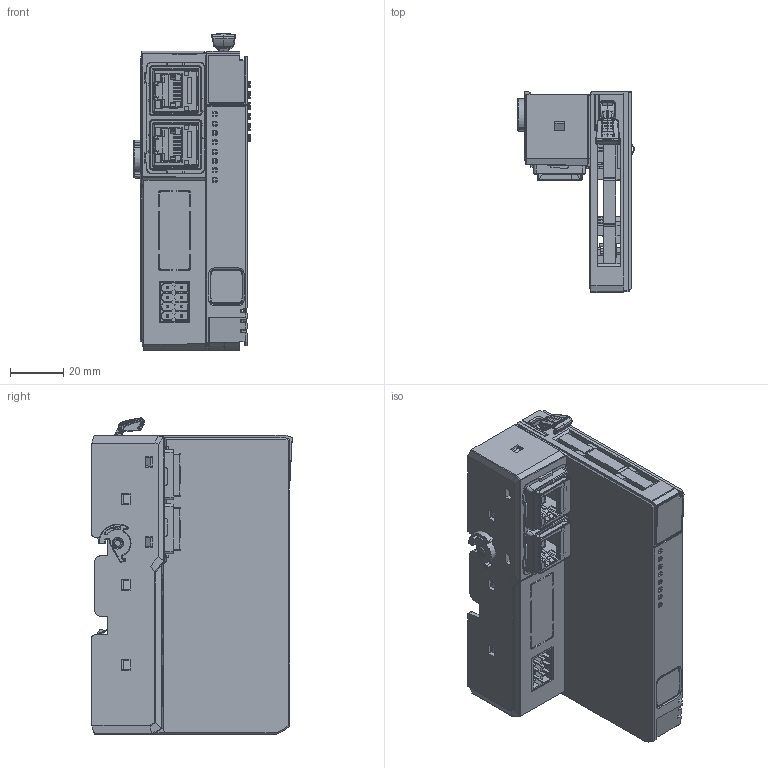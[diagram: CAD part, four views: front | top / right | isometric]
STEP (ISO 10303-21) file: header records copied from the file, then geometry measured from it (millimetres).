
FILE_DESCRIPTION((''),'2;1');
FILE_NAME('PRT0002','2024-09-19T10:44:18',('aoguohui'),(''),'CREO PARAMETRIC BY PTC INC, 2016390','CREO PARAMETRIC BY PTC INC, 2016390','');
FILE_SCHEMA(('AUTOMOTIVE_DESIGN { 1 0 10303 214 1 1 1 1 }'));
Products named in the file (1): PRT0002
Bounding box: 43.65 x 75 x 118.5 mm (x, y, z)
Volume: 59882.3 mm3; surface area: 93869.2 mm2
Topology: 9 solids, 9 shells, 6259 faces, 18243 edges, 11805 vertices
Faces by surface type: plane 4141, cylinder 1287, bspline 374, cone 273, torus 123, sphere 45, extrusion 16
Entity records: 256212 total; most frequent: CARTESIAN_POINT 58304, ORIENTED_EDGE 36400, DIRECTION 31972, EDGE_CURVE 18200, VECTOR 13260, LINE 13244, VERTEX_POINT 11805, AXIS2_PLACEMENT_3D 9356
